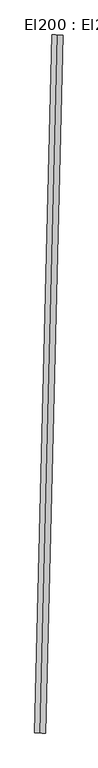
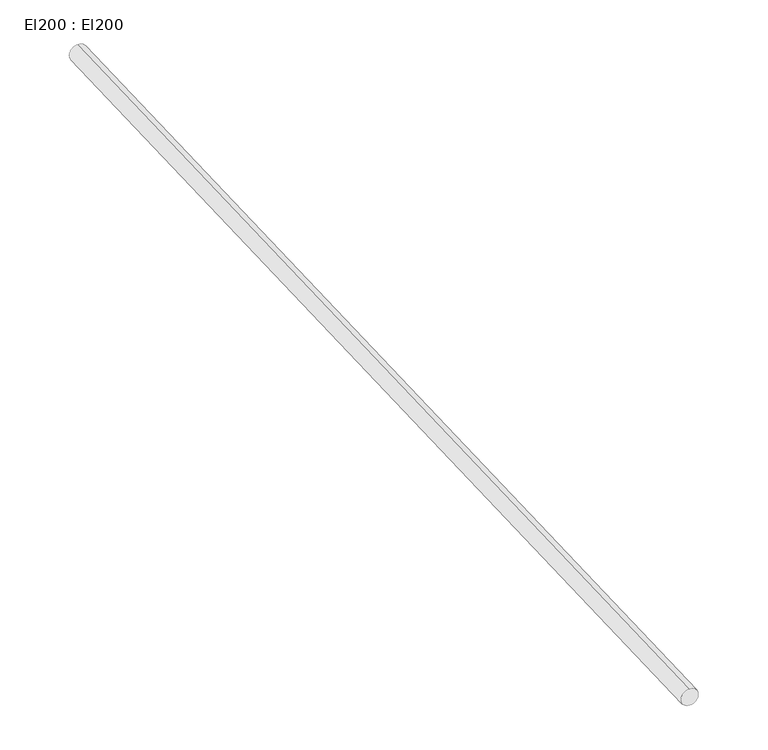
"""IFC4 building model written with IfcOpenShell, lengths in millimetres: cable carrier segment geometry, El200 : El200."""

from ifc_helpers import new_model, si_unit, point, frame, frame_2d, origin, place, context, project, spatial, circle_curve, trimmed, segment, composite_curve, outline, extrude, source, transform, mapped, element, save


def el200_el200_03f4ad5a(model_context):
    return source(origin(), model_context, "Body", "SweptSolid", [
        extrude(outline(composite_curve([segment(trimmed(circle_curve(frame_2d((0.0, -12.0)), 12.0), [point((0.0, -24.0))], [point((0.0, 0.0))], False, "CARTESIAN"), True, "CONTINUOUS"), segment(trimmed(circle_curve(frame_2d((0.0, -12.0)), 12.0), [point((0.0, 0.0))], [point((0.0, -24.0))], False, "CARTESIAN"), True, "CONTINUOUS")], self_intersect=False)), frame((11615.6298868, 30596.3519864, 2962.0), z_axis=(0.02518889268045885, 0.9996827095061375, 0.0), x_axis=(-0.9996827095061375, 0.02518889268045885, 0.0)), (0.0, 0.0, 1.0), 1537.98),
    ])


if __name__ == "__main__":
    model = new_model("IFC4")
    model_context = context("Model", 3, world=origin())
    ifc_project = project(units=[si_unit("LENGTHUNIT", "METRE", prefix="MILLI")], contexts=[model_context])
    site = spatial("IfcSite", under=ifc_project)
    building = spatial("IfcBuilding", under=site)
    placement = place(None, origin())
    el200_el200_shape = el200_el200_03f4ad5a(model_context)
    element("IfcCableCarrierSegment", 1, ObjectType="El200 : El200", at=placement, inside=building, context=model_context, shape_type="MappedRepresentation", body=[
        mapped(el200_el200_shape, transform((0.0, 0.0, 0.0), x_axis=(1.0, 0.0, 0.0), y_axis=(0.0, 1.0, 0.0), z_axis=(0.0, 0.0, 1.0))),
    ])
    save(model, "model.ifc")
